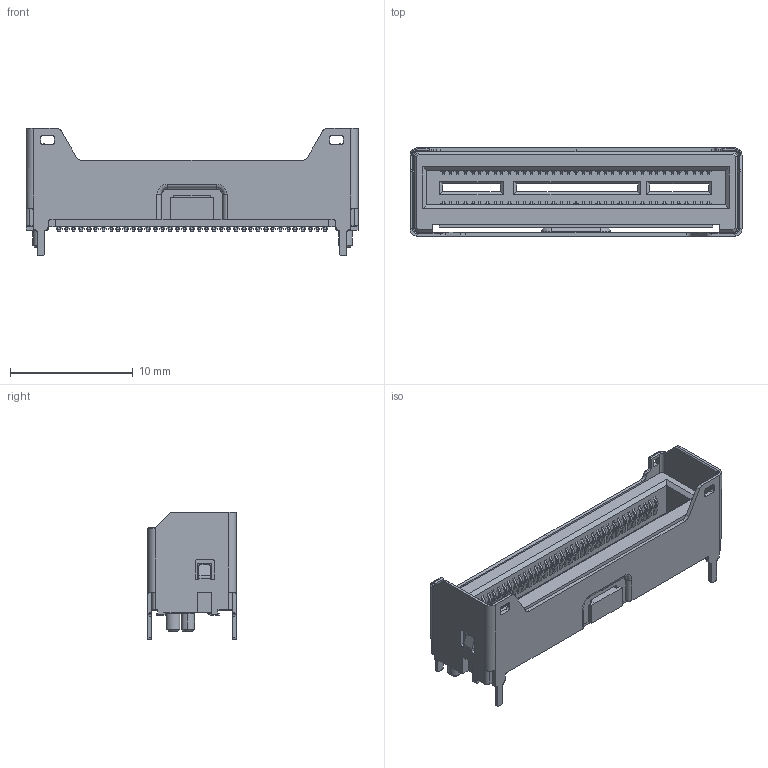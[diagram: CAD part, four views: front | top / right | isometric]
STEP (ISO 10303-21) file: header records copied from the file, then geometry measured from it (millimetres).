
FILE_DESCRIPTION((''),'2;1');
FILE_NAME('CRE_74P_VT_0830_SW0001','2024-12-16T15:08:39',('10320193'),(''),'CREO PARAMETRIC BY PTC INC, 2019471','CREO PARAMETRIC BY PTC INC, 2019471','');
FILE_SCHEMA(('AUTOMOTIVE_DESIGN { 1 0 10303 214 1 1 1 1 }'));
Products named in the file (1): CRE_74P_VT_0830_SW0001
Bounding box: 27 x 7.18 x 10.35 mm (x, y, z)
Volume: 673.5 mm3; surface area: 1949 mm2
Topology: 1 solids, 1 shells, 5308 faces, 13687 edges, 8486 vertices
Faces by surface type: plane 4110, cylinder 1166, cone 16, torus 10, bspline 4, extrusion 2
Entity records: 197928 total; most frequent: CARTESIAN_POINT 29150, ORIENTED_EDGE 27374, DIRECTION 25985, EDGE_CURVE 13687, VECTOR 11269, LINE 11267, VERTEX_POINT 8486, AXIS2_PLACEMENT_3D 7358
